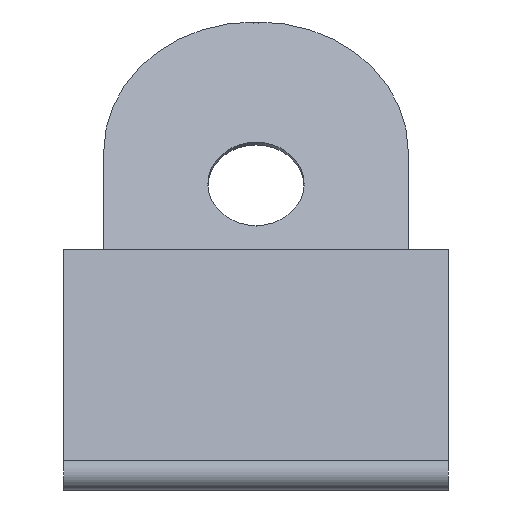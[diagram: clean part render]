
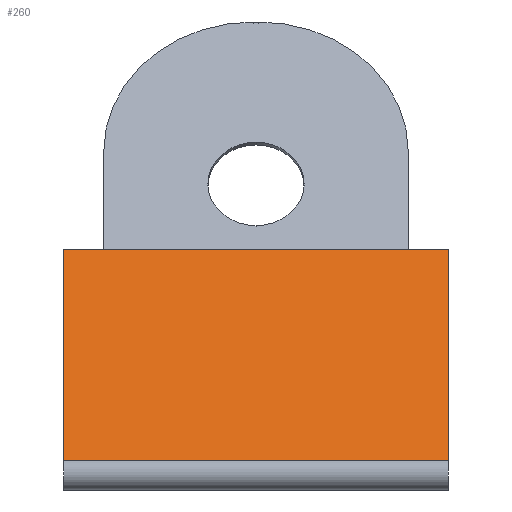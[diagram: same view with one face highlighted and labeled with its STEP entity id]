
A CAD part, front view. The second image highlights one B-rep face of the part: STEP entity #260.
In plain terms, the highlighted planar face has unit normal (0, -0.574, 0.819).
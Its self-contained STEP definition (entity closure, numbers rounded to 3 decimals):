
#7 = VERTEX_POINT ( 'NONE', #45 ) ;
#37 = ORIENTED_EDGE ( 'NONE', *, *, #194, .F. ) ;
#45 = CARTESIAN_POINT ( 'NONE',  ( -3.6, -14.225, 0.446 ) ) ;
#56 = CARTESIAN_POINT ( 'NONE',  ( -3.6, -8.585, 4.4 ) ) ;
#73 = CARTESIAN_POINT ( 'NONE',  ( -3.6, -8.611, 4.382 ) ) ;
#78 = LINE ( 'NONE', #627, #411 ) ;
#120 = DIRECTION ( 'NONE',  ( 1., 0., 0. ) ) ;
#144 = CARTESIAN_POINT ( 'NONE',  ( -3.6, -14.225, 0.446 ) ) ;
#156 = AXIS2_PLACEMENT_3D ( 'NONE', #293, #671, #615 ) ;
#157 = CARTESIAN_POINT ( 'NONE',  ( 3.6, -8.585, 4.4 ) ) ;
#169 = DIRECTION ( 'NONE',  ( 1., 0., 0. ) ) ;
#175 = ORIENTED_EDGE ( 'NONE', *, *, #647, .T. ) ;
#194 = EDGE_CURVE ( 'NONE', #490, #327, #708, .T. ) ;
#206 = EDGE_CURVE ( 'NONE', #327, #594, #78, .T. ) ;
#236 = EDGE_CURVE ( 'NONE', #490, #7, #343, .T. ) ;
#260 = ADVANCED_FACE ( 'NONE', ( #399 ), #635, .T. ) ;
#271 = DIRECTION ( 'NONE',  ( 0., -0.819, -0.574 ) ) ;
#293 = CARTESIAN_POINT ( 'NONE',  ( -3.6, -8.611, 4.382 ) ) ;
#327 = VERTEX_POINT ( 'NONE', #157 ) ;
#343 = LINE ( 'NONE', #73, #354 ) ;
#344 = CARTESIAN_POINT ( 'NONE',  ( 3.6, -14.225, 0.446 ) ) ;
#354 = VECTOR ( 'NONE', #390, 1000. ) ;
#374 = CARTESIAN_POINT ( 'NONE',  ( -3.6, -8.585, 4.4 ) ) ;
#390 = DIRECTION ( 'NONE',  ( 0., -0.819, -0.574 ) ) ;
#399 = FACE_OUTER_BOUND ( 'NONE', #697, .T. ) ;
#411 = VECTOR ( 'NONE', #271, 1000. ) ;
#427 = ORIENTED_EDGE ( 'NONE', *, *, #236, .T. ) ;
#472 = VECTOR ( 'NONE', #120, 1000. ) ;
#490 = VERTEX_POINT ( 'NONE', #56 ) ;
#530 = VECTOR ( 'NONE', #169, 1000. ) ;
#553 = ORIENTED_EDGE ( 'NONE', *, *, #206, .F. ) ;
#594 = VERTEX_POINT ( 'NONE', #344 ) ;
#615 = DIRECTION ( 'NONE',  ( 0., -0.819, -0.574 ) ) ;
#627 = CARTESIAN_POINT ( 'NONE',  ( 3.6, -8.611, 4.382 ) ) ;
#635 = PLANE ( 'NONE',  #156 ) ;
#647 = EDGE_CURVE ( 'NONE', #7, #594, #701, .T. ) ;
#671 = DIRECTION ( 'NONE',  ( 0., -0.574, 0.819 ) ) ;
#697 = EDGE_LOOP ( 'NONE', ( #175, #553, #37, #427 ) ) ;
#701 = LINE ( 'NONE', #144, #530 ) ;
#708 = LINE ( 'NONE', #374, #472 ) ;
